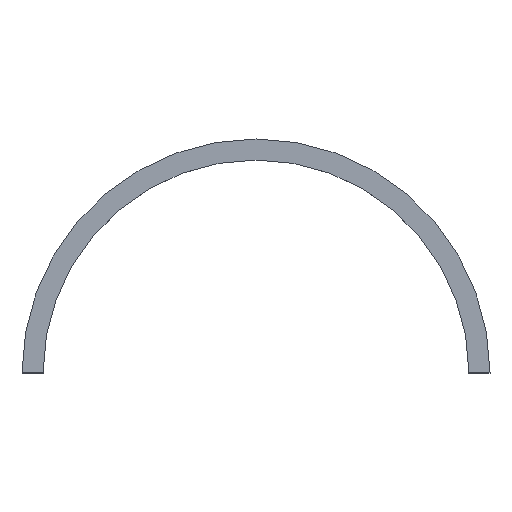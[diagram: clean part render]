
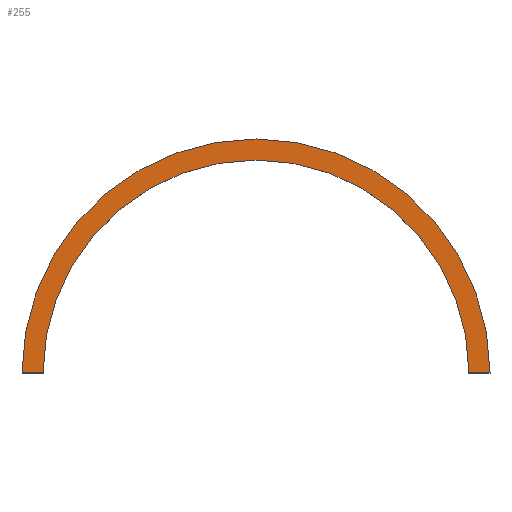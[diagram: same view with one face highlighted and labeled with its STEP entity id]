
A CAD part, top view. The second image highlights one B-rep face of the part: STEP entity #255.
In plain terms, the highlighted planar face has unit normal (0, 0, 1).
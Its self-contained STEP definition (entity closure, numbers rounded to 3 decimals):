
#33 = CYLINDRICAL_SURFACE('',#34,33.3);
#34 = AXIS2_PLACEMENT_3D('',#35,#36,#37);
#35 = CARTESIAN_POINT('',(0.,0.,0.));
#36 = DIRECTION('',(-0.,-0.,-1.));
#37 = DIRECTION('',(1.,0.,0.));
#58 = VERTEX_POINT('',#59);
#59 = CARTESIAN_POINT('',(33.3,0.,2.));
#73 = PLANE('',#74);
#74 = AXIS2_PLACEMENT_3D('',#75,#76,#77);
#75 = CARTESIAN_POINT('',(-50.,0.,-1.));
#76 = DIRECTION('',(0.,1.,0.));
#77 = DIRECTION('',(0.,0.,1.));
#85 = EDGE_CURVE('',#58,#86,#88,.T.);
#86 = VERTEX_POINT('',#87);
#87 = CARTESIAN_POINT('',(-33.3,0.,2.));
#88 = SURFACE_CURVE('',#89,(#94,#101),.PCURVE_S1.);
#89 = CIRCLE('',#90,33.3);
#90 = AXIS2_PLACEMENT_3D('',#91,#92,#93);
#91 = CARTESIAN_POINT('',(0.,0.,2.));
#92 = DIRECTION('',(0.,0.,1.));
#93 = DIRECTION('',(1.,0.,0.));
#94 = PCURVE('',#33,#95);
#95 = DEFINITIONAL_REPRESENTATION('',(#96),#100);
#96 = LINE('',#97,#98);
#97 = CARTESIAN_POINT('',(-0.,-2.));
#98 = VECTOR('',#99,1.);
#99 = DIRECTION('',(-1.,0.));
#100 = ( GEOMETRIC_REPRESENTATION_CONTEXT(2) 
PARAMETRIC_REPRESENTATION_CONTEXT() REPRESENTATION_CONTEXT('2D SPACE',''
  ) );
#101 = PCURVE('',#102,#107);
#102 = PLANE('',#103);
#103 = AXIS2_PLACEMENT_3D('',#104,#105,#106);
#104 = CARTESIAN_POINT('',(0.,0.,2.));
#105 = DIRECTION('',(0.,0.,1.));
#106 = DIRECTION('',(1.,0.,-0.));
#107 = DEFINITIONAL_REPRESENTATION('',(#108),#112);
#108 = CIRCLE('',#109,33.3);
#109 = AXIS2_PLACEMENT_2D('',#110,#111);
#110 = CARTESIAN_POINT('',(0.,0.));
#111 = DIRECTION('',(1.,0.));
#112 = ( GEOMETRIC_REPRESENTATION_CONTEXT(2) 
PARAMETRIC_REPRESENTATION_CONTEXT() REPRESENTATION_CONTEXT('2D SPACE',''
  ) );
#127 = PLANE('',#128);
#128 = AXIS2_PLACEMENT_3D('',#129,#130,#131);
#129 = CARTESIAN_POINT('',(-50.,0.,-1.));
#130 = DIRECTION('',(0.,1.,0.));
#131 = DIRECTION('',(0.,0.,1.));
#199 = CYLINDRICAL_SURFACE('',#200,30.3);
#200 = AXIS2_PLACEMENT_3D('',#201,#202,#203);
#201 = CARTESIAN_POINT('',(0.,0.,0.));
#202 = DIRECTION('',(-0.,-0.,-1.));
#203 = DIRECTION('',(1.,0.,0.));
#215 = EDGE_CURVE('',#216,#86,#218,.T.);
#216 = VERTEX_POINT('',#217);
#217 = CARTESIAN_POINT('',(-30.3,0.,2.));
#218 = SURFACE_CURVE('',#219,(#223,#229),.PCURVE_S1.);
#219 = LINE('',#220,#221);
#220 = CARTESIAN_POINT('',(-25.,0.,2.));
#221 = VECTOR('',#222,1.);
#222 = DIRECTION('',(-1.,0.,0.));
#223 = PCURVE('',#127,#224);
#224 = DEFINITIONAL_REPRESENTATION('',(#225),#228);
#225 = B_SPLINE_CURVE_WITH_KNOTS('',1,(#226,#227),.UNSPECIFIED.,.F.,.F.,
  (2,2),(-58.3,8.3),.PIECEWISE_BEZIER_KNOTS.);
#226 = CARTESIAN_POINT('',(3.,83.3));
#227 = CARTESIAN_POINT('',(3.,16.7));
#228 = ( GEOMETRIC_REPRESENTATION_CONTEXT(2) 
PARAMETRIC_REPRESENTATION_CONTEXT() REPRESENTATION_CONTEXT('2D SPACE',''
  ) );
#229 = PCURVE('',#102,#230);
#230 = DEFINITIONAL_REPRESENTATION('',(#231),#234);
#231 = B_SPLINE_CURVE_WITH_KNOTS('',1,(#232,#233),.UNSPECIFIED.,.F.,.F.,
  (2,2),(-58.3,8.3),.PIECEWISE_BEZIER_KNOTS.);
#232 = CARTESIAN_POINT('',(33.3,0.));
#233 = CARTESIAN_POINT('',(-33.3,0.));
#234 = ( GEOMETRIC_REPRESENTATION_CONTEXT(2) 
PARAMETRIC_REPRESENTATION_CONTEXT() REPRESENTATION_CONTEXT('2D SPACE',''
  ) );
#255 = ADVANCED_FACE('',(#256),#102,.T.);
#256 = FACE_BOUND('',#257,.T.);
#257 = EDGE_LOOP('',(#258,#279,#280,#281));
#258 = ORIENTED_EDGE('',*,*,#259,.F.);
#259 = EDGE_CURVE('',#58,#260,#262,.T.);
#260 = VERTEX_POINT('',#261);
#261 = CARTESIAN_POINT('',(30.3,0.,2.));
#262 = SURFACE_CURVE('',#263,(#267,#273),.PCURVE_S1.);
#263 = LINE('',#264,#265);
#264 = CARTESIAN_POINT('',(-25.,0.,2.));
#265 = VECTOR('',#266,1.);
#266 = DIRECTION('',(-1.,0.,0.));
#267 = PCURVE('',#102,#268);
#268 = DEFINITIONAL_REPRESENTATION('',(#269),#272);
#269 = B_SPLINE_CURVE_WITH_KNOTS('',1,(#270,#271),.UNSPECIFIED.,.F.,.F.,
  (2,2),(-58.3,8.3),.PIECEWISE_BEZIER_KNOTS.);
#270 = CARTESIAN_POINT('',(33.3,0.));
#271 = CARTESIAN_POINT('',(-33.3,0.));
#272 = ( GEOMETRIC_REPRESENTATION_CONTEXT(2) 
PARAMETRIC_REPRESENTATION_CONTEXT() REPRESENTATION_CONTEXT('2D SPACE',''
  ) );
#273 = PCURVE('',#73,#274);
#274 = DEFINITIONAL_REPRESENTATION('',(#275),#278);
#275 = B_SPLINE_CURVE_WITH_KNOTS('',1,(#276,#277),.UNSPECIFIED.,.F.,.F.,
  (2,2),(-58.3,8.3),.PIECEWISE_BEZIER_KNOTS.);
#276 = CARTESIAN_POINT('',(3.,83.3));
#277 = CARTESIAN_POINT('',(3.,16.7));
#278 = ( GEOMETRIC_REPRESENTATION_CONTEXT(2) 
PARAMETRIC_REPRESENTATION_CONTEXT() REPRESENTATION_CONTEXT('2D SPACE',''
  ) );
#279 = ORIENTED_EDGE('',*,*,#85,.T.);
#280 = ORIENTED_EDGE('',*,*,#215,.F.);
#281 = ORIENTED_EDGE('',*,*,#282,.F.);
#282 = EDGE_CURVE('',#260,#216,#283,.T.);
#283 = SURFACE_CURVE('',#284,(#289,#296),.PCURVE_S1.);
#284 = CIRCLE('',#285,30.3);
#285 = AXIS2_PLACEMENT_3D('',#286,#287,#288);
#286 = CARTESIAN_POINT('',(0.,0.,2.));
#287 = DIRECTION('',(0.,0.,1.));
#288 = DIRECTION('',(1.,0.,0.));
#289 = PCURVE('',#102,#290);
#290 = DEFINITIONAL_REPRESENTATION('',(#291),#295);
#291 = CIRCLE('',#292,30.3);
#292 = AXIS2_PLACEMENT_2D('',#293,#294);
#293 = CARTESIAN_POINT('',(0.,0.));
#294 = DIRECTION('',(1.,0.));
#295 = ( GEOMETRIC_REPRESENTATION_CONTEXT(2) 
PARAMETRIC_REPRESENTATION_CONTEXT() REPRESENTATION_CONTEXT('2D SPACE',''
  ) );
#296 = PCURVE('',#199,#297);
#297 = DEFINITIONAL_REPRESENTATION('',(#298),#302);
#298 = LINE('',#299,#300);
#299 = CARTESIAN_POINT('',(-0.,-2.));
#300 = VECTOR('',#301,1.);
#301 = DIRECTION('',(-1.,0.));
#302 = ( GEOMETRIC_REPRESENTATION_CONTEXT(2) 
PARAMETRIC_REPRESENTATION_CONTEXT() REPRESENTATION_CONTEXT('2D SPACE',''
  ) );
